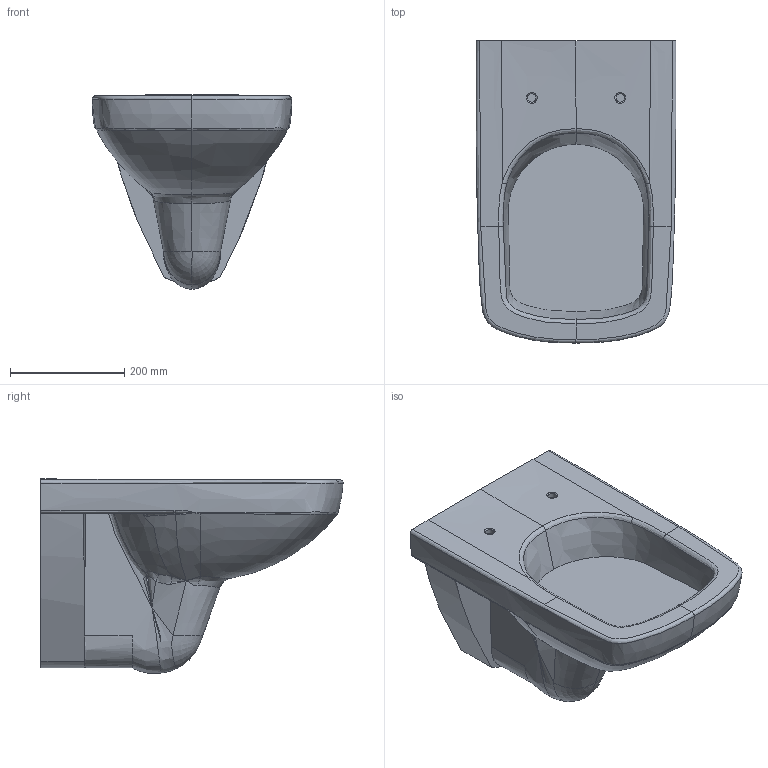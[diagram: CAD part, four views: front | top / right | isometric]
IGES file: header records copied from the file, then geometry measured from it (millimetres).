
Global section: file name: 500275; native system: Autodesk Inventor 2018; preprocessor: unknown; author: JANAN; date: 20200501.052208; units: millimetre
Bounding box: 350 x 530 x 341.69 mm (x, y, z)
Volume: 22216102.5 mm3; surface area: 728942.1 mm2
Topology: 1 solids, 1 shells, 97 faces, 237 edges, 133 vertices
Faces by surface type: bspline 97
